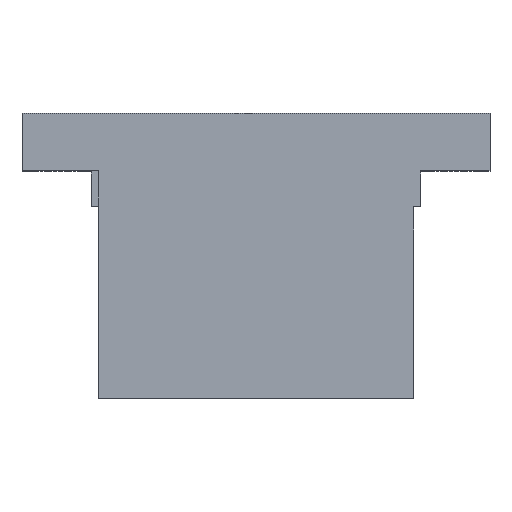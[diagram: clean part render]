
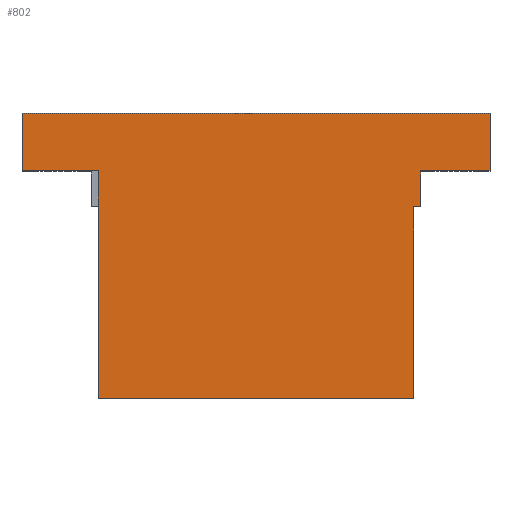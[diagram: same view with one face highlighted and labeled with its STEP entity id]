
A CAD part, top view. The second image highlights one B-rep face of the part: STEP entity #802.
In plain terms, the highlighted planar face has unit normal (0, 0, 1).
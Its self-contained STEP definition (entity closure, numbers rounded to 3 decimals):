
#105 = VERTEX_POINT('',#106);
#106 = CARTESIAN_POINT('',(26.,9.3,123.));
#112 = EDGE_CURVE('',#113,#105,#115,.T.);
#113 = VERTEX_POINT('',#114);
#114 = CARTESIAN_POINT('',(18.3,9.3,123.));
#115 = LINE('',#116,#117);
#116 = CARTESIAN_POINT('',(-26.,9.3,123.));
#117 = VECTOR('',#118,1.);
#118 = DIRECTION('',(1.,0.,0.));
#196 = VERTEX_POINT('',#197);
#197 = CARTESIAN_POINT('',(-26.,15.7,123.));
#203 = EDGE_CURVE('',#196,#204,#206,.T.);
#204 = VERTEX_POINT('',#205);
#205 = CARTESIAN_POINT('',(26.,15.7,123.));
#206 = LINE('',#207,#208);
#207 = CARTESIAN_POINT('',(-26.,15.7,123.));
#208 = VECTOR('',#209,1.);
#209 = DIRECTION('',(1.,0.,0.));
#302 = VERTEX_POINT('',#303);
#303 = CARTESIAN_POINT('',(18.3,5.3,123.));
#316 = EDGE_CURVE('',#302,#113,#317,.T.);
#317 = LINE('',#318,#319);
#318 = CARTESIAN_POINT('',(18.3,5.3,123.));
#319 = VECTOR('',#320,1.);
#320 = DIRECTION('',(0.,1.,0.));
#338 = EDGE_CURVE('',#105,#204,#339,.T.);
#339 = LINE('',#340,#341);
#340 = CARTESIAN_POINT('',(26.,9.3,123.));
#341 = VECTOR('',#342,1.);
#342 = DIRECTION('',(0.,1.,0.));
#420 = VERTEX_POINT('',#421);
#421 = CARTESIAN_POINT('',(-26.,9.3,123.));
#427 = EDGE_CURVE('',#420,#196,#428,.T.);
#428 = LINE('',#429,#430);
#429 = CARTESIAN_POINT('',(-26.,9.3,123.));
#430 = VECTOR('',#431,1.);
#431 = DIRECTION('',(0.,1.,0.));
#530 = VERTEX_POINT('',#531);
#531 = CARTESIAN_POINT('',(17.5,5.3,123.));
#537 = EDGE_CURVE('',#530,#302,#538,.T.);
#538 = LINE('',#539,#540);
#539 = CARTESIAN_POINT('',(17.,5.3,123.));
#540 = VECTOR('',#541,1.);
#541 = DIRECTION('',(1.,0.,0.));
#552 = EDGE_CURVE('',#553,#530,#555,.T.);
#553 = VERTEX_POINT('',#554);
#554 = CARTESIAN_POINT('',(17.5,-16.,123.));
#555 = LINE('',#556,#557);
#556 = CARTESIAN_POINT('',(17.5,-16.,123.));
#557 = VECTOR('',#558,1.);
#558 = DIRECTION('',(0.,1.,0.));
#592 = VERTEX_POINT('',#593);
#593 = CARTESIAN_POINT('',(-17.5,-16.,123.));
#599 = EDGE_CURVE('',#592,#553,#600,.T.);
#600 = LINE('',#601,#602);
#601 = CARTESIAN_POINT('',(-17.5,-16.,123.));
#602 = VECTOR('',#603,1.);
#603 = DIRECTION('',(1.,0.,0.));
#614 = EDGE_CURVE('',#592,#615,#617,.T.);
#615 = VERTEX_POINT('',#616);
#616 = CARTESIAN_POINT('',(-17.5,9.3,123.));
#617 = LINE('',#618,#619);
#618 = CARTESIAN_POINT('',(-17.5,-16.,123.));
#619 = VECTOR('',#620,1.);
#620 = DIRECTION('',(0.,1.,0.));
#686 = EDGE_CURVE('',#420,#615,#687,.T.);
#687 = LINE('',#688,#689);
#688 = CARTESIAN_POINT('',(-26.,9.3,123.));
#689 = VECTOR('',#690,1.);
#690 = DIRECTION('',(1.,0.,0.));
#802 = ADVANCED_FACE('',(#803),#815,.T.);
#803 = FACE_BOUND('',#804,.T.);
#804 = EDGE_LOOP('',(#805,#806,#807,#808,#809,#810,#811,#812,#813,#814)
  );
#805 = ORIENTED_EDGE('',*,*,#614,.F.);
#806 = ORIENTED_EDGE('',*,*,#599,.T.);
#807 = ORIENTED_EDGE('',*,*,#552,.T.);
#808 = ORIENTED_EDGE('',*,*,#537,.T.);
#809 = ORIENTED_EDGE('',*,*,#316,.T.);
#810 = ORIENTED_EDGE('',*,*,#112,.T.);
#811 = ORIENTED_EDGE('',*,*,#338,.T.);
#812 = ORIENTED_EDGE('',*,*,#203,.F.);
#813 = ORIENTED_EDGE('',*,*,#427,.F.);
#814 = ORIENTED_EDGE('',*,*,#686,.T.);
#815 = PLANE('',#816);
#816 = AXIS2_PLACEMENT_3D('',#817,#818,#819);
#817 = CARTESIAN_POINT('',(0.019,2.4,123.));
#818 = DIRECTION('',(0.,0.,1.));
#819 = DIRECTION('',(1.,0.,0.));
